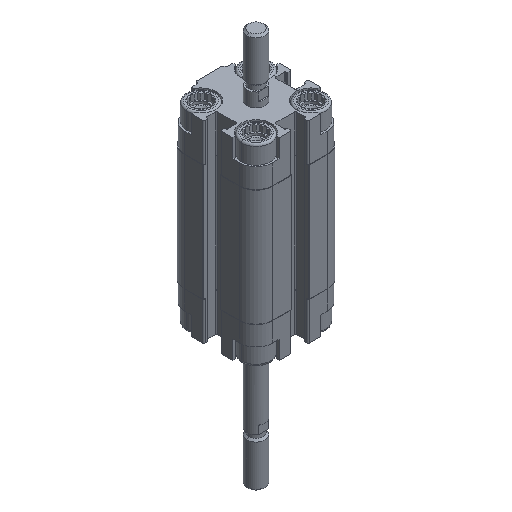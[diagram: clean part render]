
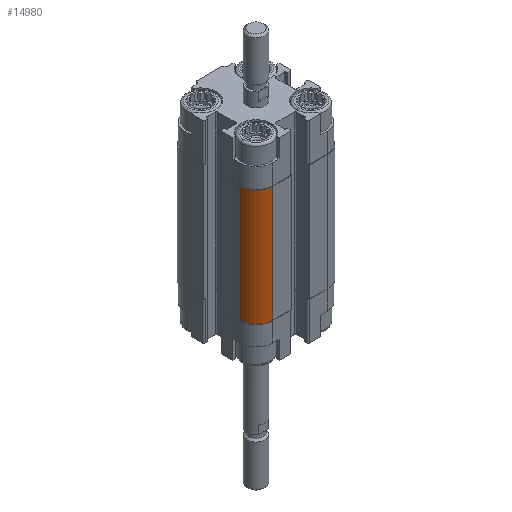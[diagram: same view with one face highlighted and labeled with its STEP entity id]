
A CAD part, isometric view. The second image highlights one B-rep face of the part: STEP entity #14980.
In plain terms, the highlighted cylindrical face has radius 5.5 mm (diameter 11 mm), a partial arc.
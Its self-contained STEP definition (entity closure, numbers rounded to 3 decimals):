
#169 = DIRECTION ( 'NONE',  ( 0., 0., 1. ) ) ;
#1317 = CIRCLE ( 'NONE', #11359, 5.5 ) ;
#1375 = EDGE_CURVE ( 'NONE', #4243, #16145, #2726, .T. ) ;
#2602 = CARTESIAN_POINT ( 'NONE',  ( -14.5, -9., -50.5 ) ) ;
#2726 = CIRCLE ( 'NONE', #13611, 5.5 ) ;
#2890 = VECTOR ( 'NONE', #7613, 1000. ) ;
#3222 = DIRECTION ( 'NONE',  ( 0., 0., -1. ) ) ;
#3455 = ORIENTED_EDGE ( 'NONE', *, *, #6168, .F. ) ;
#4243 = VERTEX_POINT ( 'NONE', #2602 ) ;
#4938 = ORIENTED_EDGE ( 'NONE', *, *, #11241, .T. ) ;
#5031 = CARTESIAN_POINT ( 'NONE',  ( -9., -9., -50.5 ) ) ;
#5383 = CARTESIAN_POINT ( 'NONE',  ( -9., -14.5, -50.5 ) ) ;
#5728 = CYLINDRICAL_SURFACE ( 'NONE', #7605, 5.5 ) ;
#5817 = DIRECTION ( 'NONE',  ( -1., 0., 0. ) ) ;
#6168 = EDGE_CURVE ( 'NONE', #4243, #12967, #11161, .T. ) ;
#6418 = ORIENTED_EDGE ( 'NONE', *, *, #1375, .T. ) ;
#6462 = DIRECTION ( 'NONE',  ( -1., 0., 0. ) ) ;
#6778 = VECTOR ( 'NONE', #169, 1000. ) ;
#7087 = CARTESIAN_POINT ( 'NONE',  ( -9., -9., -50.5 ) ) ;
#7487 = EDGE_LOOP ( 'NONE', ( #9554, #3455, #6418, #4938 ) ) ;
#7605 = AXIS2_PLACEMENT_3D ( 'NONE', #7087, #3222, #5817 ) ;
#7613 = DIRECTION ( 'NONE',  ( 0., 0., 1. ) ) ;
#7932 = CARTESIAN_POINT ( 'NONE',  ( -9., -14.5, -12.5 ) ) ;
#9554 = ORIENTED_EDGE ( 'NONE', *, *, #10593, .F. ) ;
#10128 = FACE_OUTER_BOUND ( 'NONE', #7487, .T. ) ;
#10593 = EDGE_CURVE ( 'NONE', #12967, #17407, #1317, .T. ) ;
#11161 = LINE ( 'NONE', #14127, #2890 ) ;
#11241 = EDGE_CURVE ( 'NONE', #16145, #17407, #16426, .T. ) ;
#11359 = AXIS2_PLACEMENT_3D ( 'NONE', #13035, #11689, #11955 ) ;
#11689 = DIRECTION ( 'NONE',  ( 0., 0., 1. ) ) ;
#11768 = DIRECTION ( 'NONE',  ( 0., 0., 1. ) ) ;
#11955 = DIRECTION ( 'NONE',  ( -1., 0., 0. ) ) ;
#12159 = CARTESIAN_POINT ( 'NONE',  ( -14.5, -9., -12.5 ) ) ;
#12967 = VERTEX_POINT ( 'NONE', #12159 ) ;
#13035 = CARTESIAN_POINT ( 'NONE',  ( -9., -9., -12.5 ) ) ;
#13611 = AXIS2_PLACEMENT_3D ( 'NONE', #5031, #11768, #6462 ) ;
#14127 = CARTESIAN_POINT ( 'NONE',  ( -14.5, -9., -50.5 ) ) ;
#14980 = ADVANCED_FACE ( 'NONE', ( #10128 ), #5728, .T. ) ;
#15241 = CARTESIAN_POINT ( 'NONE',  ( -9., -14.5, -50.5 ) ) ;
#16145 = VERTEX_POINT ( 'NONE', #5383 ) ;
#16426 = LINE ( 'NONE', #15241, #6778 ) ;
#17407 = VERTEX_POINT ( 'NONE', #7932 ) ;
